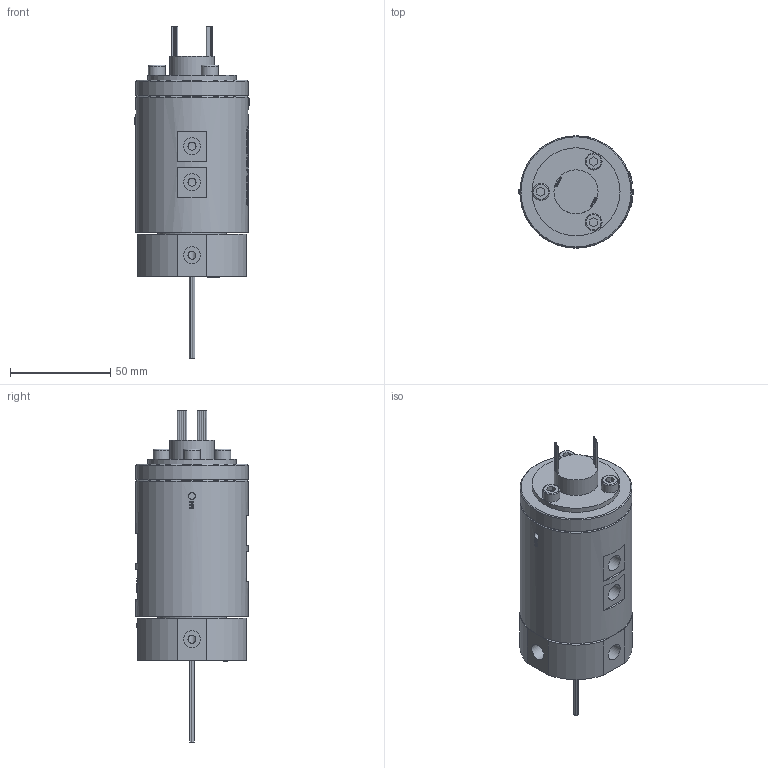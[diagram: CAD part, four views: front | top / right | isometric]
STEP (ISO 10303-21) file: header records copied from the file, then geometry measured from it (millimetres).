
FILE_DESCRIPTION(/* description */ (''),/* implementation_level */ '2;1');
FILE_NAME(/* name */ 'HQ0401-06M.stp',/* time_stamp */ '2025-02-14T11:53:05+08:00',/* author */ (''),/* organization */ (''),/* preprocessor_version */ 'ST-DEVELOPER v16.7',/* originating_system */ 'SIEMENS PLM Software NX 12.0',/* authorisation */ '');
FILE_SCHEMA (('AUTOMOTIVE_DESIGN { 1 0 10303 214 3 1 1 1 }'));
Length unit declared in the file: millimetre
Products named in the file (1): HX0540E8A2D8nggj
Bounding box: 57 x 56 x 165.8 mm (x, y, z)
Volume: 236762.1 mm3; surface area: 36440.3 mm2
Topology: 1 solids, 1 shells, 989 faces, 2613 edges, 1752 vertices
Faces by surface type: plane 474, extrusion 391, cylinder 84, bspline 30, cone 7, torus 3
Full cylindrical faces by diameter (mm): 0.8 x16, 3.4 x6, 4 x12, 4.1 x4, 4.2 x4, 7.8 x1, 8 x1, 8.5 x11, 22 x1, 34 x1, 44 x1, 56 x2
Entity records: 36262 total; most frequent: CARTESIAN_POINT 15183, ORIENTED_EDGE 4972, DIRECTION 2758, EDGE_CURVE 2486, B_SPLINE_CURVE_WITH_KNOTS 1945, VERTEX_POINT 1707, EDGE_LOOP 1187, VECTOR 1020
